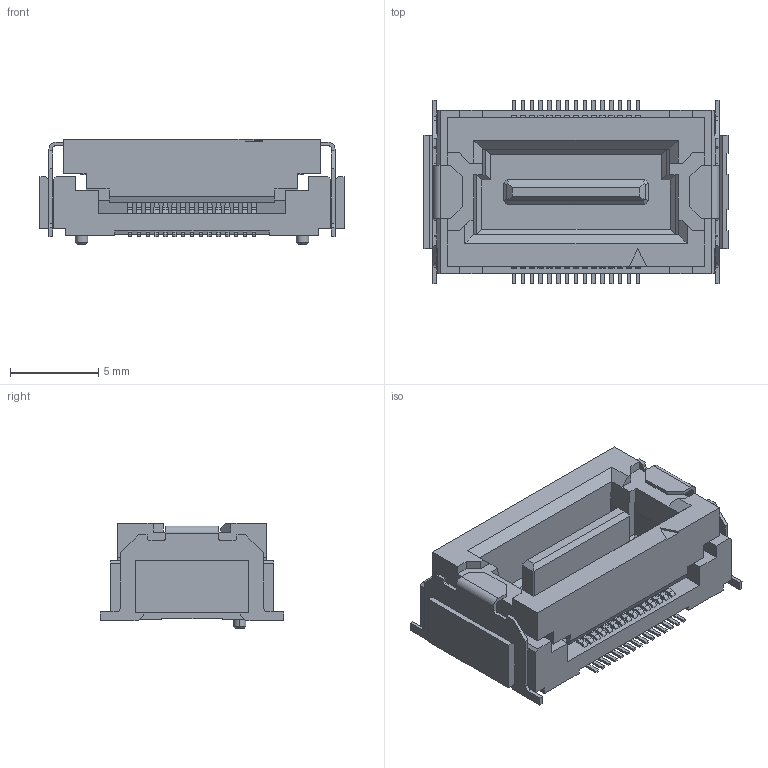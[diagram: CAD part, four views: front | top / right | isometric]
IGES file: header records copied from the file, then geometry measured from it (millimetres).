
Start section: Elysium IGES Interface
Global section: file name: 61HG:\柴崎\DT_webリニューアル\レセ\ボス有\P3D071_DT01-030S-T.igs; native system: Creo Elements/Direct Modeling 19.0F  14-Feb-2017; preprocessor: Creo Element/Direct IGES_3D V2.2; author: Unknown; organization: Unknown; date: 20170811.093443; units: millimetre
Bounding box: 17.2 x 10.38 x 5.95 mm (x, y, z)
Volume: 518.1 mm3; surface area: 1111 mm2
Topology: 1 solids, 1 shells, 1072 faces, 2963 edges, 1926 vertices
Faces by surface type: bspline 1072
